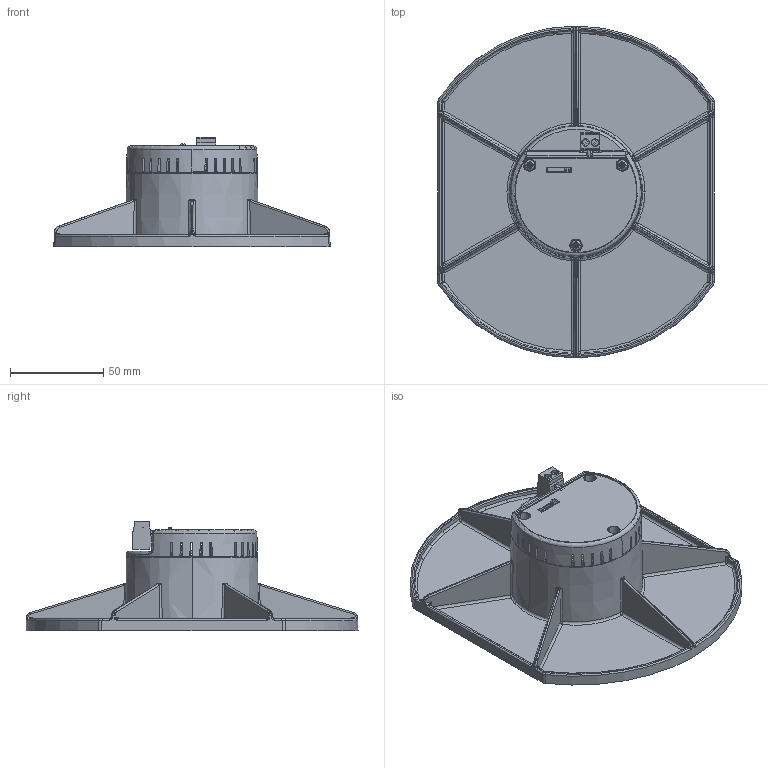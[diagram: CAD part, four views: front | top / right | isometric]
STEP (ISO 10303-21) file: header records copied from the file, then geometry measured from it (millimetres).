
FILE_DESCRIPTION((''),'2;1');
FILE_NAME('SMS-HDN-V3_ASM','2020-10-20T',('Administrator'),(''),'PRO/ENGINEER BY PARAMETRIC TECHNOLOGY CORPORATION, 2010280','PRO/ENGINEER BY PARAMETRIC TECHNOLOGY CORPORATION, 2010280','');
FILE_SCHEMA(('AUTOMOTIVE_DESIGN { 1 2 10303 214 0 1 1 1 }'));
Products named in the file (11): SMS-HDN_20170927B-V3; CAP_SMS-HDN_20170929A-V3; AQY50R-ZXX; HIDEWAY_V1_2; SS-15E01_1P5T; 5_08-2P-M-22; SMS-HDN-PCB_ASM; 5_08-2P-F-1-KF2EDG; SCREW_PM3X6; SCREW_PA3X12; SMS-HDN-V3_ASM
Assembly tree (14 placements, depth 3):
  SMS-HDN-V3_ASM
    SMS-HDN_20170927B-V3
    CAP_SMS-HDN_20170929A-V3
    AQY50R-ZXX
    SMS-HDN-PCB_ASM
      HIDEWAY_V1_2
      SS-15E01_1P5T
      5_08-2P-M-22
    5_08-2P-F-1-KF2EDG
    SCREW_PM3X6  x3
    SCREW_PA3X12  x3
Bounding box: 148 x 177.8 x 58.41 mm (x, y, z)
Volume: 166746.9 mm3; surface area: 111683 mm2
Topology: 13 solids, 13 shells, 2076 faces, 5349 edges, 3168 vertices
Faces by surface type: plane 616, bspline 456, cylinder 447, torus 233, cone 206, sphere 118
Entity records: 110643 total; most frequent: CARTESIAN_POINT 51799, ORIENTED_EDGE 9642, DIRECTION 8282, EDGE_CURVE 4821, AXIS2_PLACEMENT_3D 3270, VERTEX_POINT 2946, PRESENTATION_STYLE_ASSIGNMENT 2453, STYLED_ITEM 2323
